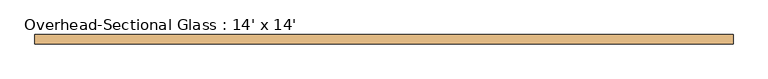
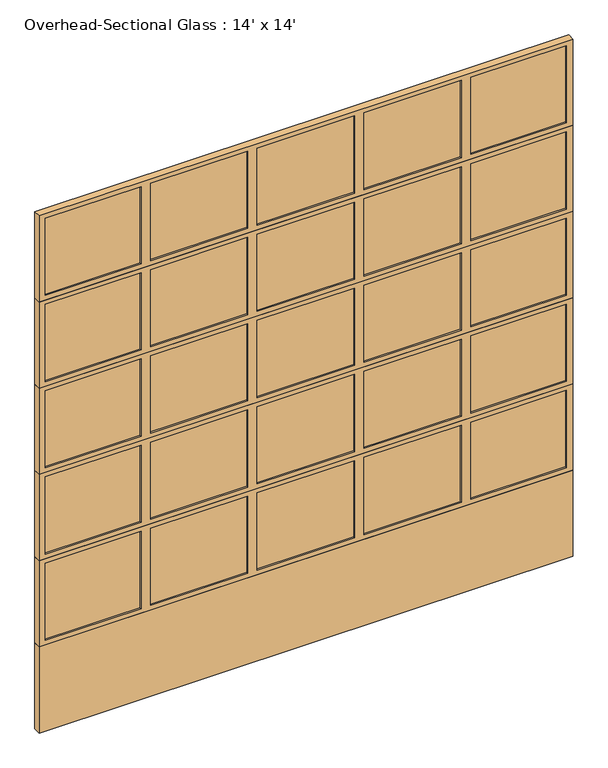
"""IFC4 building model written with IfcOpenShell, lengths in millimetres: door geometry, Overhead-Sectional Glass : 14' x 14'."""

import ifcopenshell
import ifcopenshell.guid

model = None  # the IFC model being written
_history = None  # IfcOwnerHistory: only IFC2X3 demands one
_inside = {}  # id of a spatial element -> (the spatial element, [elements in it])
_under = {}  # id of a project, library or spatial element -> (it, [spatial elements below it])
_declared = {}  # id of a project -> (the project, [libraries it declares])
_typed = {}  # id of a type object -> (the type object, [elements of that type])
_made_of = {}  # id of a material, layer set ... -> (it, [elements and type objects made of it])


def new_model(schema):
    """Start an empty IFC model of exactly this schema.

    Asked for "IFC4X3", IfcOpenShell would pick the latest addendum, in which some entities
    have other attributes; the version numbers below select the first issue.
    IFC2X3 requires an IfcOwnerHistory on every rooted entity: one is made here for all.
    """
    global model, _history
    if schema == "IFC4X3":
        model = ifcopenshell.file(schema_version=(4, 3, 0, 0))
    else:
        model = ifcopenshell.file(schema=schema)
    _inside.clear()
    _under.clear()
    _declared.clear()
    _typed.clear()
    _made_of.clear()
    _history = None
    if model.schema == "IFC2X3":
        org = make("IfcOrganization", Name="unknown")
        user = make(
            "IfcPersonAndOrganization",
            ThePerson=make("IfcPerson", FamilyName="unknown"),
            TheOrganization=org,
        )
        app = make(
            "IfcApplication",
            ApplicationDeveloper=org,
            Version="unknown",
            ApplicationFullName="unknown",
            ApplicationIdentifier="unknown",
        )
        _history = make(
            "IfcOwnerHistory",
            OwningUser=user,
            OwningApplication=app,
            ChangeAction="ADDED",
            CreationDate=0,
        )
    return model


def make(cls, **values):
    """One entity of the class cls with the attributes given. An attribute that is None is left unset."""
    return model.create_entity(
        cls, **{name: value for name, value in values.items() if value is not None}
    )


def rooted(cls, **values):
    """An entity with a GlobalId (a new one), such as an element, a storey or a relation."""
    return make(cls, GlobalId=ifcopenshell.guid.new(), OwnerHistory=_history, **values)


def si_unit(unit_type, name, prefix=None):
    """IfcSIUnit, for example si_unit("LENGTHUNIT", "METRE", prefix="MILLI")."""
    return make("IfcSIUnit", UnitType=unit_type, Prefix=prefix, Name=name)


def assignment(units):
    """IfcUnitAssignment: the units of a project."""
    return None if units is None else make("IfcUnitAssignment", Units=units)


def point(xyz):
    """IfcCartesianPoint."""
    return None if xyz is None else make("IfcCartesianPoint", Coordinates=xyz)


def direction(xyz):
    """IfcDirection."""
    return None if xyz is None else make("IfcDirection", DirectionRatios=xyz)


def frame(location, z_axis=None, x_axis=None):
    """IfcAxis2Placement3D, a coordinate frame: its origin and axes. An axis left out is left unset."""
    return make(
        "IfcAxis2Placement3D",
        Location=point(location),
        Axis=direction(z_axis),
        RefDirection=direction(x_axis),
    )


def origin():
    """The frame at (0, 0, 0) with its axes left unset."""
    return frame((0.0, 0.0, 0.0))


def place(relative_to, where):
    """IfcLocalPlacement: puts the frame where relative to a parent placement (None: the world)."""
    return make(
        "IfcLocalPlacement", PlacementRelTo=relative_to, RelativePlacement=where
    )


def context(
    kind, dimensions, precision=None, world=None, true_north=None, identifier=None
):
    """IfcGeometricRepresentationContext, for example the 3D "Model" context."""
    return make(
        "IfcGeometricRepresentationContext",
        ContextIdentifier=identifier,
        ContextType=kind,
        CoordinateSpaceDimension=dimensions,
        Precision=precision,
        WorldCoordinateSystem=world,
        TrueNorth=true_north,
    )


def project(units=None, contexts=None):
    """IfcProject with its units and contexts."""
    return rooted(
        "IfcProject",
        Name="project",
        RepresentationContexts=contexts,
        UnitsInContext=assignment(units),
    )


def spatial(cls, under=None, at=None, **own):
    """A site, building, storey or space (cls), placed at a placement, below another one or the project."""
    s = rooted(cls, ObjectPlacement=at, **own)
    if under is not None:
        _under.setdefault(under.id(), (under, []))[1].append(s)
    return s


def polyline(points):
    """IfcPolyline through the points."""
    return make("IfcPolyline", Points=[point(p) for p in points])


def outline(outer, holes=None, kind="AREA"):
    """IfcArbitraryClosedProfileDef: a profile drawn as a closed curve; with holes, ...WithVoids."""
    if holes is None:
        return make("IfcArbitraryClosedProfileDef", ProfileType=kind, OuterCurve=outer)
    return make(
        "IfcArbitraryProfileDefWithVoids",
        ProfileType=kind,
        OuterCurve=outer,
        InnerCurves=holes,
    )


def extrude(swept, where, along, depth):
    """IfcExtrudedAreaSolid: the profile swept, set in the frame where, extruded along a direction by depth."""
    return make(
        "IfcExtrudedAreaSolid",
        SweptArea=swept,
        Position=where,
        ExtrudedDirection=direction(along),
        Depth=depth,
    )


def faces_of(points, faces, orient=None, outer=None):
    """IfcFace entities. A face is a list of loops; a loop is a list of indices into points, from 0.

    orient and outer hold one flag for each loop. By default every Orientation is true, the
    first loop of a face is its IfcFaceOuterBound and the others are IfcFaceBound.
    """
    made = []
    for i, loops in enumerate(faces):
        bounds = []
        for j, loop in enumerate(loops):
            is_outer = j == 0 if outer is None else outer[i][j]
            bounds.append(
                make(
                    "IfcFaceOuterBound" if is_outer else "IfcFaceBound",
                    Bound=make("IfcPolyLoop", Polygon=[points[k] for k in loop]),
                    Orientation=True if orient is None else orient[i][j],
                )
            )
        made.append(make("IfcFace", Bounds=bounds))
    return made


def faceted_brep(points, faces, orient=None, outer=None, voids=None):
    """IfcFacetedBrep: a solid bounded by flat faces; with voids (closed shells), ...WithVoids."""
    shared = [point(p) for p in points]
    hull = make("IfcClosedShell", CfsFaces=faces_of(shared, faces, orient, outer))
    if voids is None:
        return make("IfcFacetedBrep", Outer=hull)
    return make(
        "IfcFacetedBrepWithVoids",
        Outer=hull,
        Voids=[
            make(cls, CfsFaces=faces_of(shared, fs, o, b)) for cls, fs, o, b in voids
        ],
    )


def shape(context_of_items, identifier, shape_type, items):
    """IfcShapeRepresentation: the items that make up one representation, for example the "Body"."""
    return make(
        "IfcShapeRepresentation",
        ContextOfItems=context_of_items,
        RepresentationIdentifier=identifier,
        RepresentationType=shape_type,
        Items=items,
    )


def source(mapping_origin, context_of_items, identifier, shape_type, items):
    """IfcRepresentationMap: a shape defined once, which mapped items show again and again."""
    return make(
        "IfcRepresentationMap",
        MappingOrigin=mapping_origin,
        MappedRepresentation=shape(context_of_items, identifier, shape_type, items),
    )


def transform(
    local_origin,
    x_axis=None,
    y_axis=None,
    z_axis=None,
    scale=None,
    scale2=None,
    scale3=None,
    uniform=True,
):
    """IfcCartesianTransformationOperator3D, or its non-uniform kind. x_axis, y_axis, z_axis: its Axis1, 2, 3."""
    if uniform:
        return make(
            "IfcCartesianTransformationOperator3D",
            Axis1=direction(x_axis),
            Axis2=direction(y_axis),
            LocalOrigin=point(local_origin),
            Scale=scale,
            Axis3=direction(z_axis),
        )
    return make(
        "IfcCartesianTransformationOperator3DnonUniform",
        Axis1=direction(x_axis),
        Axis2=direction(y_axis),
        LocalOrigin=point(local_origin),
        Scale=scale,
        Axis3=direction(z_axis),
        Scale2=scale2,
        Scale3=scale3,
    )


def mapped(mapping_source, mapping_target):
    """IfcMappedItem: shows the shape of a source again, moved by a transform."""
    return make(
        "IfcMappedItem", MappingSource=mapping_source, MappingTarget=mapping_target
    )


def made_of(thing, what):
    """Note that an element or type object is made of a material, layer set ...; save() writes the relation."""
    if what is not None:
        _made_of.setdefault(what.id(), (what, []))[1].append(thing)
    return thing


def element(
    cls,
    number,
    at=None,
    inside=None,
    cuts=None,
    type_object=None,
    material=None,
    context=None,
    identifier="Body",
    shape_type=None,
    held_by="IfcProductDefinitionShape",
    body=None,
    shapes=None,
    **own,
):
    """One element of the class cls, such as IfcWall. Its Tag is "e" and its number.

    at: its placement. inside: the storey or other place that contains it. cuts: it is an
    opening in that element (IfcRelVoidsElement). A single representation is given by context,
    identifier, shape_type and body (its items); several are given by shapes. held_by: the class
    of the entity that holds the representations. save() writes the other relations.
    """
    e = rooted(cls, Tag="e%d" % number, ObjectPlacement=at, **own)
    if body is not None:
        shapes = [shape(context, identifier, shape_type, body)]
    if shapes is not None:
        e.Representation = make(held_by, Representations=shapes)
    if inside is not None:
        _inside.setdefault(inside.id(), (inside, []))[1].append(e)
    if cuts is not None:
        rooted(
            "IfcRelVoidsElement", RelatingBuildingElement=cuts, RelatedOpeningElement=e
        )
    if type_object is not None:
        _typed.setdefault(type_object.id(), (type_object, []))[1].append(e)
    return made_of(e, material)


def aggregate(whole, parts):
    """IfcRelAggregates: a whole, such as a stair, and the parts it consists of."""
    return rooted("IfcRelAggregates", RelatingObject=whole, RelatedObjects=parts)


def save(model, path):
    """Write the relations noted so far, then the file.

    IfcRelAggregates (storeys below a building ...), IfcRelContainedInSpatialStructure (elements
    in a storey), IfcRelDefinesByType, IfcRelAssociatesMaterial and IfcRelDeclares: one each for
    every whole, place, type object, material and project.
    """
    for whole, parts in _under.values():
        aggregate(whole, parts)
    for where, things in _inside.values():
        rooted(
            "IfcRelContainedInSpatialStructure",
            RelatedElements=things,
            RelatingStructure=where,
        )
    for kind, things in _typed.values():
        rooted("IfcRelDefinesByType", RelatedObjects=things, RelatingType=kind)
    for what, things in _made_of.values():
        rooted("IfcRelAssociatesMaterial", RelatedObjects=things, RelatingMaterial=what)
    for by, libraries in _declared.values():
        rooted("IfcRelDeclares", RelatingContext=by, RelatedDefinitions=libraries)
    model.write(path)


def overhead_sectional_glass_14_x_14_271c9dc0(model_context):
    return source(origin(), model_context, "Body", "SolidModel", [
        extrude(outline(polyline([(4368.8, 2133.6), (4368.8, -2133.6), (3640.6666667, -2133.6), (3640.6666667, 2133.6), (4368.8, 2133.6)]), holes=[polyline([(4330.7, 2082.8), (3678.7666667, 2082.8), (3678.7666667, 1318.26), (4330.7, 1318.26), (4330.7, 2082.8)]), polyline([(4330.7, 1242.06), (3678.7666667, 1242.06), (3678.7666667, 464.82), (4330.7, 464.82), (4330.7, 1242.06)]), polyline([(4330.7, 388.62), (3678.7666667, 388.62), (3678.7666667, -388.62), (4330.7, -388.62), (4330.7, 388.62)]), polyline([(4330.7, -464.82), (3678.7666667, -464.82), (3678.7666667, -1242.06), (4330.7, -1242.06), (4330.7, -464.82)]), polyline([(4330.7, -1318.26), (3678.7666667, -1318.26), (3678.7666667, -2082.8), (4330.7, -2082.8), (4330.7, -1318.26)])]), frame((0.0, -233.3625, 0.0), z_axis=(0.0, 1.0, 0.0), x_axis=(0.0, 0.0, 1.0)), (0.0, 0.0, 1.0), 57.15),
        extrude(outline(polyline([(1318.26, -195.2625), (2082.8, -195.2625), (2082.8, -220.6625), (1318.26, -220.6625), (1318.26, -195.2625)])), frame((0.0, 0.0, 3678.7666667), z_axis=(0.0, 0.0, 1.0), x_axis=(1.0, 0.0, 0.0)), (0.0, 0.0, 1.0), 651.9333333),
        extrude(outline(polyline([(464.82, -195.2625), (1242.06, -195.2625), (1242.06, -220.6625), (464.82, -220.6625), (464.82, -195.2625)])), frame((0.0, 0.0, 3678.7666667), z_axis=(0.0, 0.0, 1.0), x_axis=(1.0, 0.0, 0.0)), (0.0, 0.0, 1.0), 651.9333333),
        extrude(outline(polyline([(-388.62, -195.2625), (388.62, -195.2625), (388.62, -220.6625), (-388.62, -220.6625), (-388.62, -195.2625)])), frame((0.0, 0.0, 3678.7666667), z_axis=(0.0, 0.0, 1.0), x_axis=(1.0, 0.0, 0.0)), (0.0, 0.0, 1.0), 651.9333333),
        extrude(outline(polyline([(-1242.06, -195.2625), (-464.82, -195.2625), (-464.82, -220.6625), (-1242.06, -220.6625), (-1242.06, -195.2625)])), frame((0.0, 0.0, 3678.7666667), z_axis=(0.0, 0.0, 1.0), x_axis=(1.0, 0.0, 0.0)), (0.0, 0.0, 1.0), 651.9333333),
        extrude(outline(polyline([(-2082.8, -195.2625), (-1318.26, -195.2625), (-1318.26, -220.6625), (-2082.8, -220.6625), (-2082.8, -195.2625)])), frame((0.0, 0.0, 3678.7666667), z_axis=(0.0, 0.0, 1.0), x_axis=(1.0, 0.0, 0.0)), (0.0, 0.0, 1.0), 651.9333333),
        extrude(outline(polyline([(3640.6666667, 2133.6), (3640.6666667, -2133.6), (2912.5333333, -2133.6), (2912.5333333, 2133.6), (3640.6666667, 2133.6)]), holes=[polyline([(3602.5666667, 2082.8), (2950.6333333, 2082.8), (2950.6333333, 1318.26), (3602.5666667, 1318.26), (3602.5666667, 2082.8)]), polyline([(3602.5666667, 1242.06), (2950.6333333, 1242.06), (2950.6333333, 464.82), (3602.5666667, 464.82), (3602.5666667, 1242.06)]), polyline([(3602.5666667, 388.62), (2950.6333333, 388.62), (2950.6333333, -388.62), (3602.5666667, -388.62), (3602.5666667, 388.62)]), polyline([(3602.5666667, -464.82), (2950.6333333, -464.82), (2950.6333333, -1242.06), (3602.5666667, -1242.06), (3602.5666667, -464.82)]), polyline([(3602.5666667, -1318.26), (2950.6333333, -1318.26), (2950.6333333, -2082.8), (3602.5666667, -2082.8), (3602.5666667, -1318.26)])]), frame((0.0, -233.3625, 0.0), z_axis=(0.0, 1.0, 0.0), x_axis=(0.0, 0.0, 1.0)), (0.0, 0.0, 1.0), 57.15),
        extrude(outline(polyline([(1318.26, -195.2625), (2082.8, -195.2625), (2082.8, -220.6625), (1318.26, -220.6625), (1318.26, -195.2625)])), frame((0.0, 0.0, 2950.6333333), z_axis=(0.0, 0.0, 1.0), x_axis=(1.0, 0.0, 0.0)), (0.0, 0.0, 1.0), 651.9333333),
        extrude(outline(polyline([(464.82, -195.2625), (1242.06, -195.2625), (1242.06, -220.6625), (464.82, -220.6625), (464.82, -195.2625)])), frame((0.0, 0.0, 2950.6333333), z_axis=(0.0, 0.0, 1.0), x_axis=(1.0, 0.0, 0.0)), (0.0, 0.0, 1.0), 651.9333333),
        extrude(outline(polyline([(-388.62, -195.2625), (388.62, -195.2625), (388.62, -220.6625), (-388.62, -220.6625), (-388.62, -195.2625)])), frame((0.0, 0.0, 2950.6333333), z_axis=(0.0, 0.0, 1.0), x_axis=(1.0, 0.0, 0.0)), (0.0, 0.0, 1.0), 651.9333333),
        extrude(outline(polyline([(-1242.06, -195.2625), (-464.82, -195.2625), (-464.82, -220.6625), (-1242.06, -220.6625), (-1242.06, -195.2625)])), frame((0.0, 0.0, 2950.6333333), z_axis=(0.0, 0.0, 1.0), x_axis=(1.0, 0.0, 0.0)), (0.0, 0.0, 1.0), 651.9333333),
        extrude(outline(polyline([(-2082.8, -195.2625), (-1318.26, -195.2625), (-1318.26, -220.6625), (-2082.8, -220.6625), (-2082.8, -195.2625)])), frame((0.0, 0.0, 2950.6333333), z_axis=(0.0, 0.0, 1.0), x_axis=(1.0, 0.0, 0.0)), (0.0, 0.0, 1.0), 651.9333333),
        extrude(outline(polyline([(2912.5333333, 2133.6), (2912.5333333, -2133.6), (2184.4, -2133.6), (2184.4, 2133.6), (2912.5333333, 2133.6)]), holes=[polyline([(2874.4333333, 2082.8), (2222.5, 2082.8), (2222.5, 1318.26), (2874.4333333, 1318.26), (2874.4333333, 2082.8)]), polyline([(2874.4333333, 1242.06), (2222.5, 1242.06), (2222.5, 464.82), (2874.4333333, 464.82), (2874.4333333, 1242.06)]), polyline([(2874.4333333, 388.62), (2222.5, 388.62), (2222.5, -388.62), (2874.4333333, -388.62), (2874.4333333, 388.62)]), polyline([(2874.4333333, -464.82), (2222.5, -464.82), (2222.5, -1242.06), (2874.4333333, -1242.06), (2874.4333333, -464.82)]), polyline([(2874.4333333, -1318.26), (2222.5, -1318.26), (2222.5, -2082.8), (2874.4333333, -2082.8), (2874.4333333, -1318.26)])]), frame((0.0, -233.3625, 0.0), z_axis=(0.0, 1.0, 0.0), x_axis=(0.0, 0.0, 1.0)), (0.0, 0.0, 1.0), 57.15),
        extrude(outline(polyline([(1318.26, -195.2625), (2082.8, -195.2625), (2082.8, -220.6625), (1318.26, -220.6625), (1318.26, -195.2625)])), frame((0.0, 0.0, 2222.5), z_axis=(0.0, 0.0, 1.0), x_axis=(1.0, 0.0, 0.0)), (0.0, 0.0, 1.0), 651.9333333),
        extrude(outline(polyline([(464.82, -195.2625), (1242.06, -195.2625), (1242.06, -220.6625), (464.82, -220.6625), (464.82, -195.2625)])), frame((0.0, 0.0, 2222.5), z_axis=(0.0, 0.0, 1.0), x_axis=(1.0, 0.0, 0.0)), (0.0, 0.0, 1.0), 651.9333333),
        extrude(outline(polyline([(-388.62, -195.2625), (388.62, -195.2625), (388.62, -220.6625), (-388.62, -220.6625), (-388.62, -195.2625)])), frame((0.0, 0.0, 2222.5), z_axis=(0.0, 0.0, 1.0), x_axis=(1.0, 0.0, 0.0)), (0.0, 0.0, 1.0), 651.9333333),
        extrude(outline(polyline([(-1242.06, -195.2625), (-464.82, -195.2625), (-464.82, -220.6625), (-1242.06, -220.6625), (-1242.06, -195.2625)])), frame((0.0, 0.0, 2222.5), z_axis=(0.0, 0.0, 1.0), x_axis=(1.0, 0.0, 0.0)), (0.0, 0.0, 1.0), 651.9333333),
        extrude(outline(polyline([(-2082.8, -195.2625), (-1318.26, -195.2625), (-1318.26, -220.6625), (-2082.8, -220.6625), (-2082.8, -195.2625)])), frame((0.0, 0.0, 2222.5), z_axis=(0.0, 0.0, 1.0), x_axis=(1.0, 0.0, 0.0)), (0.0, 0.0, 1.0), 651.9333333),
        extrude(outline(polyline([(2184.4, 2133.6), (2184.4, -2133.6), (1456.2666667, -2133.6), (1456.2666667, 2133.6), (2184.4, 2133.6)]), holes=[polyline([(2146.3, 2082.8), (1494.3666667, 2082.8), (1494.3666667, 1318.26), (2146.3, 1318.26), (2146.3, 2082.8)]), polyline([(2146.3, 1242.06), (1494.3666667, 1242.06), (1494.3666667, 464.82), (2146.3, 464.82), (2146.3, 1242.06)]), polyline([(2146.3, 388.62), (1494.3666667, 388.62), (1494.3666667, -388.62), (2146.3, -388.62), (2146.3, 388.62)]), polyline([(2146.3, -464.82), (1494.3666667, -464.82), (1494.3666667, -1242.06), (2146.3, -1242.06), (2146.3, -464.82)]), polyline([(2146.3, -1318.26), (1494.3666667, -1318.26), (1494.3666667, -2082.8), (2146.3, -2082.8), (2146.3, -1318.26)])]), frame((0.0, -233.3625, 0.0), z_axis=(0.0, 1.0, 0.0), x_axis=(0.0, 0.0, 1.0)), (0.0, 0.0, 1.0), 57.15),
        extrude(outline(polyline([(1318.26, -195.2625), (2082.8, -195.2625), (2082.8, -220.6625), (1318.26, -220.6625), (1318.26, -195.2625)])), frame((0.0, 0.0, 1494.3666667), z_axis=(0.0, 0.0, 1.0), x_axis=(1.0, 0.0, 0.0)), (0.0, 0.0, 1.0), 651.9333333),
        extrude(outline(polyline([(464.82, -195.2625), (1242.06, -195.2625), (1242.06, -220.6625), (464.82, -220.6625), (464.82, -195.2625)])), frame((0.0, 0.0, 1494.3666667), z_axis=(0.0, 0.0, 1.0), x_axis=(1.0, 0.0, 0.0)), (0.0, 0.0, 1.0), 651.9333333),
        extrude(outline(polyline([(-388.62, -195.2625), (388.62, -195.2625), (388.62, -220.6625), (-388.62, -220.6625), (-388.62, -195.2625)])), frame((0.0, 0.0, 1494.3666667), z_axis=(0.0, 0.0, 1.0), x_axis=(1.0, 0.0, 0.0)), (0.0, 0.0, 1.0), 651.9333333),
        extrude(outline(polyline([(-1242.06, -195.2625), (-464.82, -195.2625), (-464.82, -220.6625), (-1242.06, -220.6625), (-1242.06, -195.2625)])), frame((0.0, 0.0, 1494.3666667), z_axis=(0.0, 0.0, 1.0), x_axis=(1.0, 0.0, 0.0)), (0.0, 0.0, 1.0), 651.9333333),
        extrude(outline(polyline([(-2082.8, -195.2625), (-1318.26, -195.2625), (-1318.26, -220.6625), (-2082.8, -220.6625), (-2082.8, -195.2625)])), frame((0.0, 0.0, 1494.3666667), z_axis=(0.0, 0.0, 1.0), x_axis=(1.0, 0.0, 0.0)), (0.0, 0.0, 1.0), 651.9333333),
        extrude(outline(polyline([(1456.2666667, 2133.6), (1456.2666667, -2133.6), (728.1333333, -2133.6), (728.1333333, 2133.6), (1456.2666667, 2133.6)]), holes=[polyline([(1418.1666667, 2082.8), (766.2333333, 2082.8), (766.2333333, 1318.26), (1418.1666667, 1318.26), (1418.1666667, 2082.8)]), polyline([(1418.1666667, 1242.06), (766.2333333, 1242.06), (766.2333333, 464.82), (1418.1666667, 464.82), (1418.1666667, 1242.06)]), polyline([(1418.1666667, 388.62), (766.2333333, 388.62), (766.2333333, -388.62), (1418.1666667, -388.62), (1418.1666667, 388.62)]), polyline([(1418.1666667, -464.82), (766.2333333, -464.82), (766.2333333, -1242.06), (1418.1666667, -1242.06), (1418.1666667, -464.82)]), polyline([(1418.1666667, -1318.26), (766.2333333, -1318.26), (766.2333333, -2082.8), (1418.1666667, -2082.8), (1418.1666667, -1318.26)])]), frame((0.0, -233.3625, 0.0), z_axis=(0.0, 1.0, 0.0), x_axis=(0.0, 0.0, 1.0)), (0.0, 0.0, 1.0), 57.15),
        extrude(outline(polyline([(1318.26, -195.2625), (2082.8, -195.2625), (2082.8, -220.6625), (1318.26, -220.6625), (1318.26, -195.2625)])), frame((0.0, 0.0, 766.2333333), z_axis=(0.0, 0.0, 1.0), x_axis=(1.0, 0.0, 0.0)), (0.0, 0.0, 1.0), 651.9333333),
        extrude(outline(polyline([(464.82, -195.2625), (1242.06, -195.2625), (1242.06, -220.6625), (464.82, -220.6625), (464.82, -195.2625)])), frame((0.0, 0.0, 766.2333333), z_axis=(0.0, 0.0, 1.0), x_axis=(1.0, 0.0, 0.0)), (0.0, 0.0, 1.0), 651.9333333),
        extrude(outline(polyline([(-388.62, -195.2625), (388.62, -195.2625), (388.62, -220.6625), (-388.62, -220.6625), (-388.62, -195.2625)])), frame((0.0, 0.0, 766.2333333), z_axis=(0.0, 0.0, 1.0), x_axis=(1.0, 0.0, 0.0)), (0.0, 0.0, 1.0), 651.9333333),
        extrude(outline(polyline([(-1242.06, -195.2625), (-464.82, -195.2625), (-464.82, -220.6625), (-1242.06, -220.6625), (-1242.06, -195.2625)])), frame((0.0, 0.0, 766.2333333), z_axis=(0.0, 0.0, 1.0), x_axis=(1.0, 0.0, 0.0)), (0.0, 0.0, 1.0), 651.9333333),
        extrude(outline(polyline([(-2082.8, -195.2625), (-1318.26, -195.2625), (-1318.26, -220.6625), (-2082.8, -220.6625), (-2082.8, -195.2625)])), frame((0.0, 0.0, 766.2333333), z_axis=(0.0, 0.0, 1.0), x_axis=(1.0, 0.0, 0.0)), (0.0, 0.0, 1.0), 651.9333333),
        faceted_brep([(-2133.6, -176.2125, 728.1333333), (-2133.6, -233.3625, 728.1333333), (2133.6, -233.3625, 728.1333333), (2133.6, -176.2125, 728.1333333), (-2133.6, -176.2125, 0.0), (2133.6, -176.2125, 0.0), (2133.6, -233.3625, 0.0), (-2133.6, -233.3625, 0.0), (2082.8, -176.2125, 63.5), (2082.8, -176.2125, 690.0333333), (1318.26, -176.2125, 690.0333333), (1318.26, -176.2125, 63.5), (1242.06, -176.2125, 63.5), (1242.06, -176.2125, 690.0333333), (464.82, -176.2125, 690.0333333), (464.82, -176.2125, 63.5), (388.62, -176.2125, 63.5), (388.62, -176.2125, 690.0333333), (-388.62, -176.2125, 690.0333333), (-388.62, -176.2125, 63.5), (-464.82, -176.2125, 63.5), (-464.82, -176.2125, 690.0333333), (-1242.06, -176.2125, 690.0333333), (-1242.06, -176.2125, 63.5), (-1318.26, -176.2125, 63.5), (-1318.26, -176.2125, 690.0333333), (-2082.8, -176.2125, 690.0333333), (-2082.8, -176.2125, 63.5), (2082.8, -192.2583452, 690.0333333), (2082.8, -192.2583452, 63.5), (1318.26, -192.2583452, 63.5), (1318.26, -192.2583452, 690.0333333), (1242.06, -192.2583452, 690.0333333), (1242.06, -192.2583452, 63.5), (464.82, -192.2583452, 63.5), (464.82, -192.2583452, 690.0333333), (388.62, -192.2583452, 690.0333333), (388.62, -192.2583452, 63.5), (-388.62, -192.2583452, 63.5), (-388.62, -192.2583452, 690.0333333), (-464.82, -192.2583452, 690.0333333), (-464.82, -192.2583452, 63.5), (-1242.06, -192.2583452, 63.5), (-1242.06, -192.2583452, 690.0333333), (-1318.26, -192.2583452, 690.0333333), (-1318.26, -192.2583452, 63.5), (-2082.8, -192.2583452, 63.5), (-2082.8, -192.2583452, 690.0333333)], [[[0, 1, 2, 3]], [[4, 5, 6, 7]], [[1, 0, 4, 7]], [[2, 1, 7, 6]], [[3, 2, 6, 5]], [[0, 3, 5, 4], [8, 9, 10, 11], [12, 13, 14, 15], [16, 17, 18, 19], [20, 21, 22, 23], [24, 25, 26, 27]], [[28, 29, 30, 31]], [[32, 33, 34, 35]], [[36, 37, 38, 39]], [[40, 41, 42, 43]], [[44, 45, 46, 47]], [[29, 28, 9, 8]], [[30, 29, 8, 11]], [[31, 30, 11, 10]], [[28, 31, 10, 9]], [[33, 32, 13, 12]], [[34, 33, 12, 15]], [[35, 34, 15, 14]], [[32, 35, 14, 13]], [[37, 36, 17, 16]], [[38, 37, 16, 19]], [[39, 38, 19, 18]], [[36, 39, 18, 17]], [[41, 40, 21, 20]], [[42, 41, 20, 23]], [[43, 42, 23, 22]], [[40, 43, 22, 21]], [[45, 44, 25, 24]], [[46, 45, 24, 27]], [[47, 46, 27, 26]], [[44, 47, 26, 25]]]),
    ])


if __name__ == "__main__":
    model = new_model("IFC4")
    model_context = context("Model", 3, world=origin())
    ifc_project = project(units=[si_unit("LENGTHUNIT", "METRE", prefix="MILLI")], contexts=[model_context])
    site = spatial("IfcSite", under=ifc_project)
    building = spatial("IfcBuilding", under=site)
    placement = place(None, origin())
    overhead_sectional_glass_14_x_14_shape = overhead_sectional_glass_14_x_14_271c9dc0(model_context)
    element("IfcDoor", 1, ObjectType="Overhead-Sectional Glass : 14' x 14'", at=placement, inside=building, context=model_context, shape_type="MappedRepresentation", body=[
        mapped(overhead_sectional_glass_14_x_14_shape, transform((0.0, 0.0, 0.0), x_axis=(1.0, 0.0, 0.0), y_axis=(0.0, 1.0, 0.0), z_axis=(0.0, 0.0, 1.0))),
    ])
    save(model, "model.ifc")
